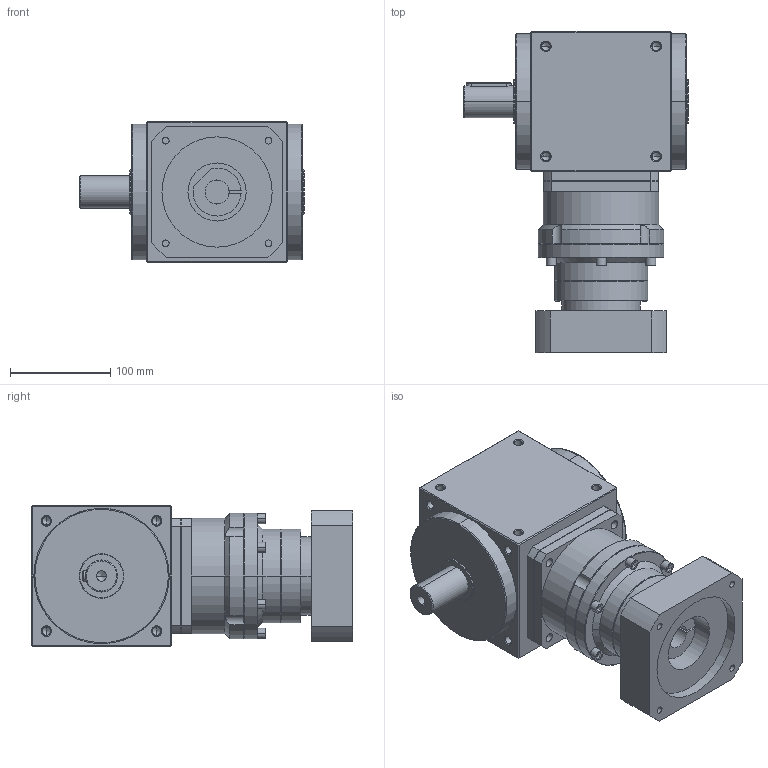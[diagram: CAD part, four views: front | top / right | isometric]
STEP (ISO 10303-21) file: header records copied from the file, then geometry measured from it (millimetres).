
FILE_DESCRIPTION (( 'STEP AP203' ), '1' );
FILE_NAME ('AT140-FR1-L2 24-110-145-M8.STEP', '2024-12-21T08:25:36', ( '' ), ( '' ), 'SwSTEP 2.0', 'SolidWorks 2021', '' );
FILE_SCHEMA (( 'CONFIG_CONTROL_DESIGN' ));
Length unit declared in the file: millimetre
Products named in the file (3): AT140-FR1; AT140-FR1-L2 24-110-145-M8; VRB-115-L2-S2-P1 24-110-145-M8
Assembly tree (2 placements, depth 2):
  AT140-FR1-L2 24-110-145-M8
    AT140-FR1
    VRB-115-L2-S2-P1 24-110-145-M8
Bounding box: 224 x 320.5 x 140 mm (x, y, z)
Volume: 5219370.2 mm3; surface area: 295805.5 mm2
Topology: 2 solids, 2 shells, 440 faces, 1077 edges, 623 vertices
Faces by surface type: cylinder 172, plane 138, cone 116, bspline 14
Entity records: 13425 total; most frequent: CARTESIAN_POINT 3208, DIRECTION 2116, ORIENTED_EDGE 2066, EDGE_CURVE 1033, AXIS2_PLACEMENT_3D 805, VERTEX_POINT 623, LINE 506, VECTOR 506
